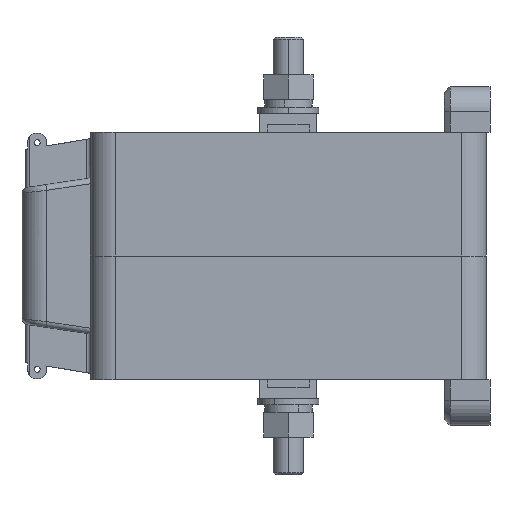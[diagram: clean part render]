
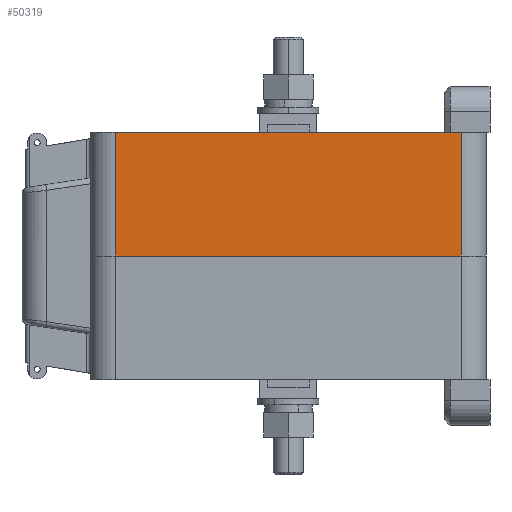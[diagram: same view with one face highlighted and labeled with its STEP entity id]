
A CAD part, left-side view. The second image highlights one B-rep face of the part: STEP entity #50319.
In plain terms, the highlighted planar face has unit normal (-1, 0, 0) as drawn and (1, 0, 0) by its records, which use the part's own axes.
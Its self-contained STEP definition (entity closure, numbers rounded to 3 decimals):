
#5936 = CARTESIAN_POINT ( 'NONE',  ( 42.5, 104., 32.5 ) ) ;
#6189 = FACE_OUTER_BOUND ( 'NONE', #40513, .T. ) ;
#6721 = EDGE_CURVE ( 'NONE', #33806, #25289, #14854, .T. ) ;
#8100 = CARTESIAN_POINT ( 'NONE',  ( 42.5, 6.5, 32.5 ) ) ;
#8987 = VERTEX_POINT ( 'NONE', #11059 ) ;
#9086 = ORIENTED_EDGE ( 'NONE', *, *, #44167, .T. ) ;
#9838 = PLANE ( 'NONE',  #17886 ) ;
#10707 = DIRECTION ( 'NONE',  ( 0., 1., 0. ) ) ;
#10960 = CARTESIAN_POINT ( 'NONE',  ( 42.5, 104., 0. ) ) ;
#11059 = CARTESIAN_POINT ( 'NONE',  ( 42.5, 97.5, 32.5 ) ) ;
#12589 = ORIENTED_EDGE ( 'NONE', *, *, #38146, .T. ) ;
#13403 = CARTESIAN_POINT ( 'NONE',  ( 42.5, 6.5, 32.5 ) ) ;
#14356 = VECTOR ( 'NONE', #10707, 1000. ) ;
#14755 = CARTESIAN_POINT ( 'NONE',  ( 42.5, 104., 32.5 ) ) ;
#14854 = LINE ( 'NONE', #8100, #22139 ) ;
#15804 = ORIENTED_EDGE ( 'NONE', *, *, #6721, .T. ) ;
#17886 = AXIS2_PLACEMENT_3D ( 'NONE', #5936, #22545, #18648 ) ;
#18648 = DIRECTION ( 'NONE',  ( 0., -1., 0. ) ) ;
#19458 = CARTESIAN_POINT ( 'NONE',  ( 42.5, 97.5, 32.5 ) ) ;
#20216 = DIRECTION ( 'NONE',  ( 0., 1., 0. ) ) ;
#20684 = ORIENTED_EDGE ( 'NONE', *, *, #36648, .F. ) ;
#22139 = VECTOR ( 'NONE', #50675, 1000. ) ;
#22404 = LINE ( 'NONE', #10960, #14356 ) ;
#22545 = DIRECTION ( 'NONE',  ( -1., 0., 0. ) ) ;
#25289 = VERTEX_POINT ( 'NONE', #40302 ) ;
#27755 = LINE ( 'NONE', #19458, #43970 ) ;
#33806 = VERTEX_POINT ( 'NONE', #13403 ) ;
#34471 = CARTESIAN_POINT ( 'NONE',  ( 42.5, 97.5, 0. ) ) ;
#34732 = LINE ( 'NONE', #14755, #43901 ) ;
#36601 = VERTEX_POINT ( 'NONE', #34471 ) ;
#36648 = EDGE_CURVE ( 'NONE', #33806, #8987, #34732, .T. ) ;
#38146 = EDGE_CURVE ( 'NONE', #36601, #8987, #27755, .T. ) ;
#40302 = CARTESIAN_POINT ( 'NONE',  ( 42.5, 6.5, 0. ) ) ;
#40513 = EDGE_LOOP ( 'NONE', ( #20684, #15804, #9086, #12589 ) ) ;
#43597 = DIRECTION ( 'NONE',  ( 0., 0., 1. ) ) ;
#43901 = VECTOR ( 'NONE', #20216, 1000. ) ;
#43970 = VECTOR ( 'NONE', #43597, 1000. ) ;
#44167 = EDGE_CURVE ( 'NONE', #25289, #36601, #22404, .T. ) ;
#50319 = ADVANCED_FACE ( 'NONE', ( #6189 ), #9838, .F. ) ;
#50675 = DIRECTION ( 'NONE',  ( 0., 0., -1. ) ) ;
